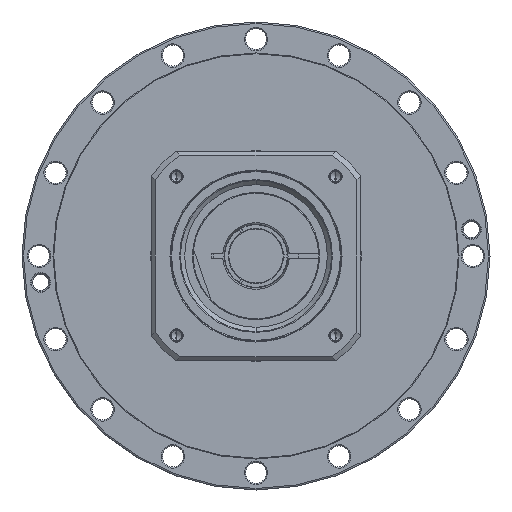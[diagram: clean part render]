
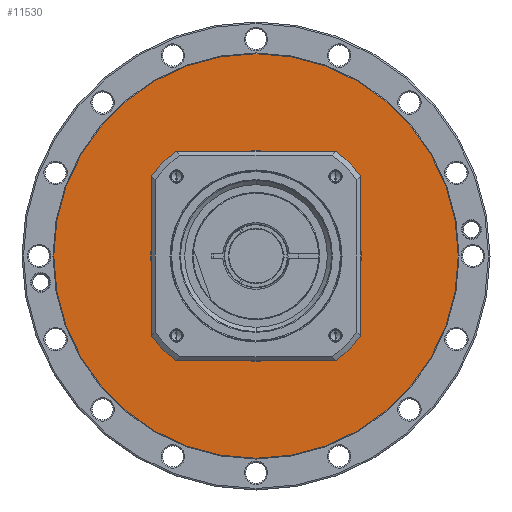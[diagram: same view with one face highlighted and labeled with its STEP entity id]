
A CAD part, left-side view. The second image highlights one B-rep face of the part: STEP entity #11530.
In plain terms, the highlighted planar face has unit normal (-1, 0, 0) as drawn and (1, 0, 0) by its records, which use the part's own axes.
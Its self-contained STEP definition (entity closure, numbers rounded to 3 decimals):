
#10561=CARTESIAN_POINT('',(-3.5,0.,0.));
#10562=DIRECTION('',(-1.,0.,0.));
#10563=DIRECTION('',(0.,-1.,0.));
#10564=AXIS2_PLACEMENT_3D('',#10561,#10562,#10563);
#10566=CARTESIAN_POINT('',(-3.5,0.,0.));
#10567=DIRECTION('',(-1.,0.,0.));
#10568=DIRECTION('',(0.,1.,0.));
#10569=AXIS2_PLACEMENT_3D('',#10566,#10567,#10568);
#10571=CARTESIAN_POINT('',(-3.5,0.,0.));
#10572=DIRECTION('',(-1.,0.,0.));
#10573=DIRECTION('',(0.,-1.,0.));
#10574=AXIS2_PLACEMENT_3D('',#10571,#10572,#10573);
#10576=CARTESIAN_POINT('',(-3.5,0.,0.));
#10577=DIRECTION('',(-1.,0.,0.));
#10578=DIRECTION('',(0.,1.,0.));
#10579=AXIS2_PLACEMENT_3D('',#10576,#10577,#10578);
#10809=CARTESIAN_POINT('',(-3.5,-130.5,0.));
#10810=CARTESIAN_POINT('',(-3.5,130.5,0.));
#10811=VERTEX_POINT('',#10809);
#10812=VERTEX_POINT('',#10810);
#10825=CARTESIAN_POINT('',(-3.5,-68.,0.));
#10826=CARTESIAN_POINT('',(-3.5,68.,0.));
#10827=VERTEX_POINT('',#10825);
#10828=VERTEX_POINT('',#10826);
#11515=CARTESIAN_POINT('',(-3.5,0.,0.));
#11516=DIRECTION('',(1.,0.,0.));
#11517=DIRECTION('',(0.,-1.,0.));
#11518=AXIS2_PLACEMENT_3D('',#11515,#11516,#11517);
#11519=PLANE('',#11518);
#11520=ORIENTED_EDGE('',*,*,#11471,.T.);
#11521=ORIENTED_EDGE('',*,*,#11456,.T.);
#11522=EDGE_LOOP('',(#11520,#11521));
#11523=FACE_OUTER_BOUND('',#11522,.F.);
#11525=ORIENTED_EDGE('',*,*,#11524,.F.);
#11527=ORIENTED_EDGE('',*,*,#11526,.F.);
#11528=EDGE_LOOP('',(#11525,#11527));
#11529=FACE_BOUND('',#11528,.F.);
#11530=ADVANCED_FACE('',(#11523,#11529),#11519,.T.);
#10565=CIRCLE('',#10564,68.);
#10570=CIRCLE('',#10569,68.);
#10575=CIRCLE('',#10574,130.5);
#10580=CIRCLE('',#10579,130.5);
#11456=EDGE_CURVE('',#10812,#10811,#10580,.T.);
#11471=EDGE_CURVE('',#10811,#10812,#10575,.T.);
#11524=EDGE_CURVE('',#10827,#10828,#10565,.T.);
#11526=EDGE_CURVE('',#10828,#10827,#10570,.T.);
